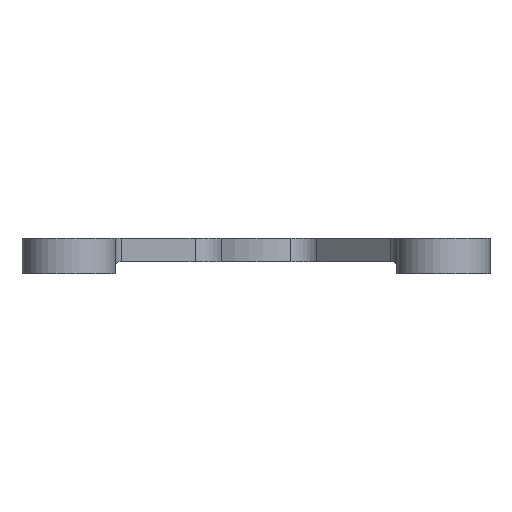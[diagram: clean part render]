
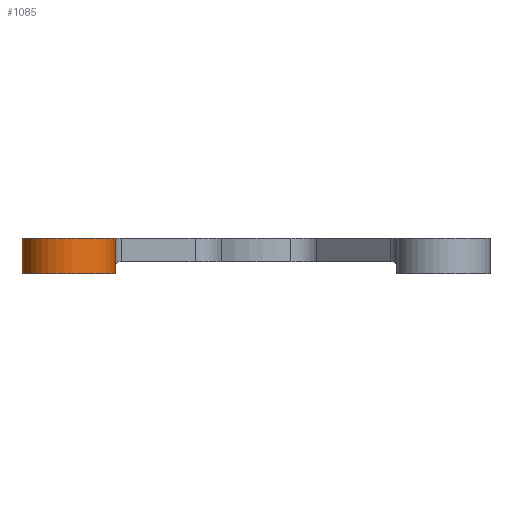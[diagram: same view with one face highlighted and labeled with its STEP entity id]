
A CAD part, front view. The second image highlights one B-rep face of the part: STEP entity #1085.
In plain terms, the highlighted cylindrical face has radius 20 mm (diameter 40 mm), a partial arc.
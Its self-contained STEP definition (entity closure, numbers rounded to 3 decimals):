
#31=CYLINDRICAL_SURFACE('',#1209,20.);
#114=FACE_OUTER_BOUND('',#186,.T.);
#186=EDGE_LOOP('',(#826,#827,#828,#829));
#272=LINE('',#1840,#337);
#273=LINE('',#1841,#338);
#337=VECTOR('',#1439,10.);
#338=VECTOR('',#1440,10.);
#389=CIRCLE('',#1161,20.);
#429=CIRCLE('',#1210,20.);
#479=VERTEX_POINT('',#1704);
#480=VERTEX_POINT('',#1705);
#525=VERTEX_POINT('',#1811);
#528=VERTEX_POINT('',#1825);
#586=EDGE_CURVE('',#479,#480,#389,.T.);
#643=EDGE_CURVE('',#480,#528,#272,.T.);
#644=EDGE_CURVE('',#525,#479,#273,.T.);
#645=EDGE_CURVE('',#528,#525,#429,.T.);
#826=ORIENTED_EDGE('',*,*,#643,.F.);
#827=ORIENTED_EDGE('',*,*,#586,.F.);
#828=ORIENTED_EDGE('',*,*,#644,.F.);
#829=ORIENTED_EDGE('',*,*,#645,.F.);
#1085=ADVANCED_FACE('',(#114),#31,.T.);
#1161=AXIS2_PLACEMENT_3D('',#1706,#1326,#1327);
#1209=AXIS2_PLACEMENT_3D('',#1839,#1437,#1438);
#1210=AXIS2_PLACEMENT_3D('',#1842,#1441,#1442);
#1326=DIRECTION('center_axis',(0.,0.,1.));
#1327=DIRECTION('ref_axis',(1.,0.,0.));
#1437=DIRECTION('center_axis',(0.,0.,-1.));
#1438=DIRECTION('ref_axis',(-0.707,-0.707,0.));
#1439=DIRECTION('',(0.,0.,-1.));
#1440=DIRECTION('',(0.,0.,1.));
#1441=DIRECTION('center_axis',(0.,0.,-1.));
#1442=DIRECTION('ref_axis',(1.,0.,0.));
#1704=CARTESIAN_POINT('',(-76.362,-60.334,0.));
#1705=CARTESIAN_POINT('',(-60.334,-76.362,0.));
#1706=CARTESIAN_POINT('Origin',(-80.,-80.,0.));
#1811=CARTESIAN_POINT('',(-76.362,-60.334,-15.));
#1825=CARTESIAN_POINT('',(-60.334,-76.362,-15.));
#1839=CARTESIAN_POINT('Origin',(-80.,-80.,0.));
#1840=CARTESIAN_POINT('',(-60.334,-76.362,0.));
#1841=CARTESIAN_POINT('',(-76.362,-60.334,0.));
#1842=CARTESIAN_POINT('Origin',(-80.,-80.,-15.));
